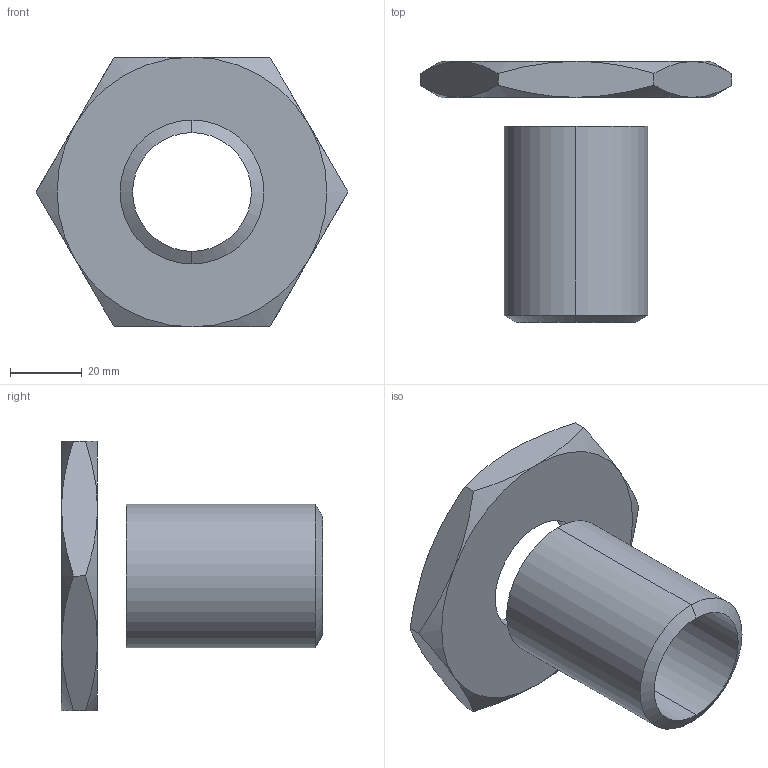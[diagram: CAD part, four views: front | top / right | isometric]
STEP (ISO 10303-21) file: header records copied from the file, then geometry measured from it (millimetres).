
FILE_DESCRIPTION (( 'STEP AP203' ), '1' );
FILE_NAME ('63302.W0042_M33x3,5.step', '2013-12-08T11:15:00', ( 'User' ), ( '' ), 'SwSTEP 2.0', 'SolidWorks 2009', '' );
FILE_SCHEMA (( 'CONFIG_CONTROL_DESIGN' ));
Length unit declared in the file: millimetre
Products named in the file (1): 63302.W0042_M33x3,5
Bounding box: 86.6 x 72.52 x 75 mm (x, y, z)
Volume: 60027.4 mm3; surface area: 24128.1 mm2
Topology: 2 solids, 2 shells, 31 faces, 66 edges, 38 vertices
Faces by surface type: cone 16, plane 9, cylinder 6
Entity records: 1041 total; most frequent: CARTESIAN_POINT 320, DIRECTION 132, ORIENTED_EDGE 132, EDGE_CURVE 66, AXIS2_PLACEMENT_3D 58, VERTEX_POINT 38, EDGE_LOOP 34, FACE_OUTER_BOUND 31
